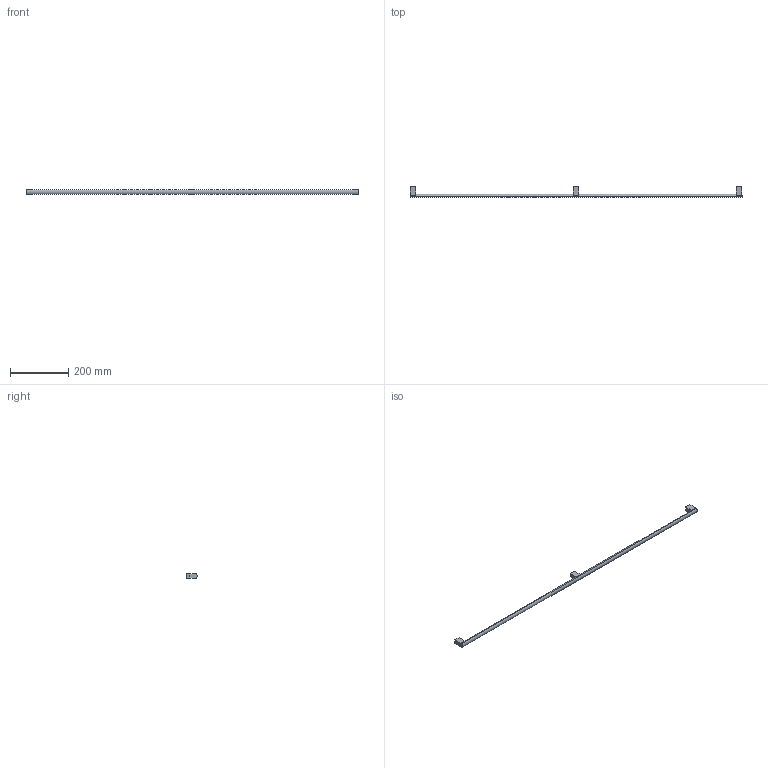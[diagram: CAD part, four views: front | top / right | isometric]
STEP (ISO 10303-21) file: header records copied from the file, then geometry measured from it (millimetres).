
FILE_DESCRIPTION( ( 'STEP AP214' ), '1' );
FILE_NAME( 'D:/Shahbaz D&D/Task/Check and correct handles with 3 drill sockets/Clivia/115217.stp', '2023-02-20T11:16:21', ( '' ), ( '' ), ' ', 'PARTsolutions', ' ' );
FILE_SCHEMA( ( 'AUTOMOTIVE_DESIGN { 1 0 10303 214 1 1 1 1 }' ) );
Length unit declared in the file: millimetre
Products named in the file (1): _115217
Bounding box: 1140 x 35.96 x 16 mm (x, y, z)
Volume: 175532.2 mm3; surface area: 54941.9 mm2
Topology: 1 solids, 1 shells, 30 faces, 69 edges, 46 vertices
Faces by surface type: plane 25, cylinder 5
Full cylindrical faces by diameter (mm): 4 x3
Entity records: 1090 total; most frequent: DIRECTION 144, CARTESIAN_POINT 143, ORIENTED_EDGE 132, EDGE_CURVE 66, LINE 50, VECTOR 50, AXIS2_PLACEMENT_3D 47, VERTEX_POINT 46
